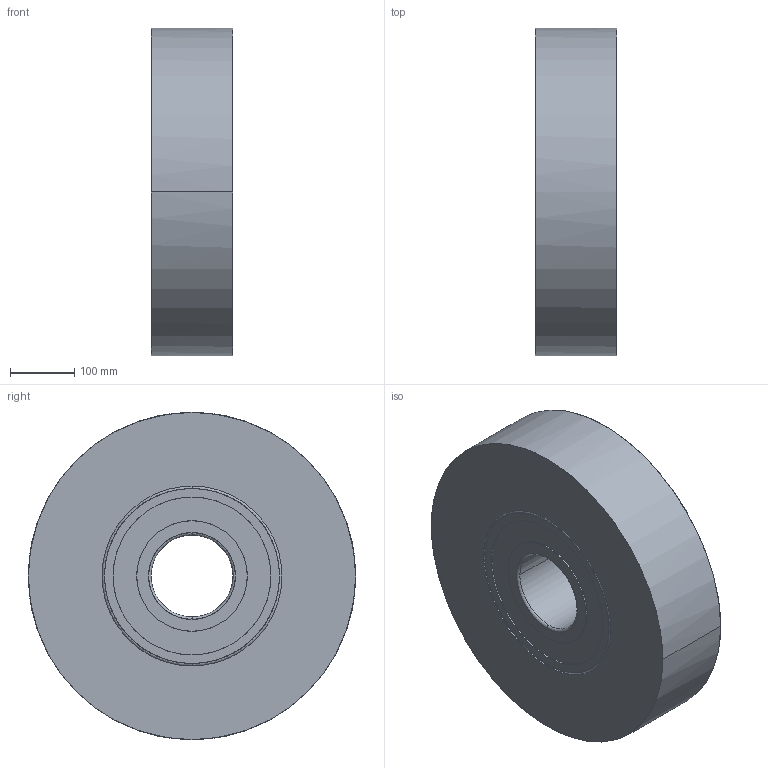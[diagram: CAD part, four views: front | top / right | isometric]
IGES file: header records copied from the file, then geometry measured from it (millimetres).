
Global section: native system: Kubotek KeyCreator; preprocessor: KCM Version 1.1.1442.0; author: KeyCreator User; organization: Self; date: 20170714.090210; units: inch
Bounding box: 127 x 508 x 508 mm (x, y, z)
Surface area: 649369.2 mm2 (no closed solid volume)
Topology: 0 solids, 0 shells, 32 faces, 208 edges, 208 vertices
Faces by surface type: bspline 32
